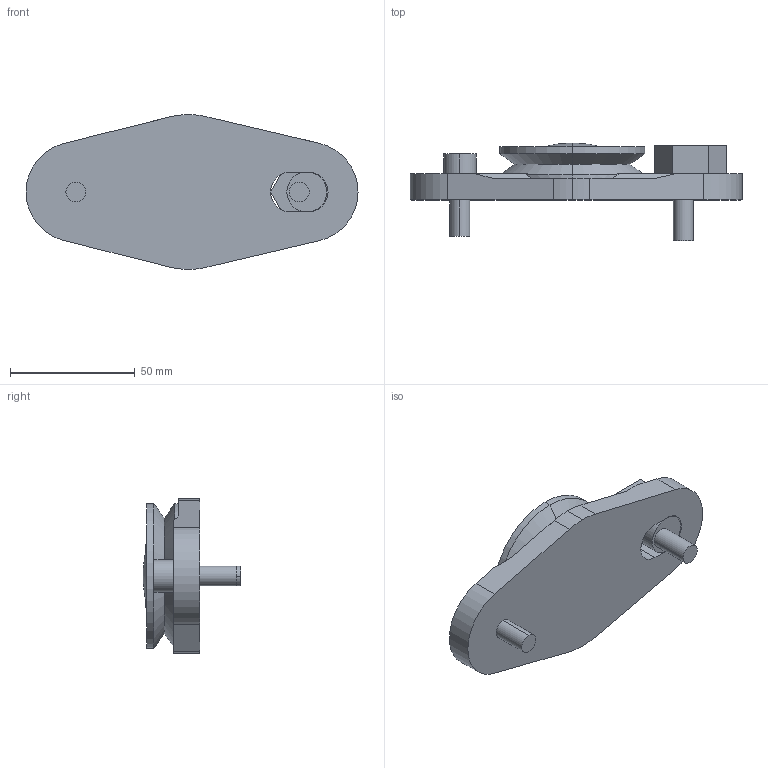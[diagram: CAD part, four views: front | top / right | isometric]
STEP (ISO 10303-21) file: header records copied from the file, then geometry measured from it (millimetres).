
FILE_DESCRIPTION(('STEP AP203'),'1');
FILE_NAME('gbhj_580_e_ns.stp','2021-09-29T05:45:28',('TraceParts'),('TraceParts S.A.'),'Spatial InterOp 3D',' ',' ');
FILE_SCHEMA(('CONFIG_CONTROL_DESIGN'));
Length unit declared in the file: millimetre
Products named in the file (1): 1
Bounding box: 133 x 39.2 x 62 mm (x, y, z)
Volume: 96011.5 mm3; surface area: 22359.2 mm2
Topology: 2 solids, 2 shells, 67 faces, 161 edges, 106 vertices
Faces by surface type: plane 39, cylinder 22, cone 4, sphere 2
Entity records: 2009 total; most frequent: CARTESIAN_POINT 348, DIRECTION 347, ORIENTED_EDGE 322, EDGE_CURVE 161, AXIS2_PLACEMENT_3D 121, VERTEX_POINT 106, LINE 105, VECTOR 105
